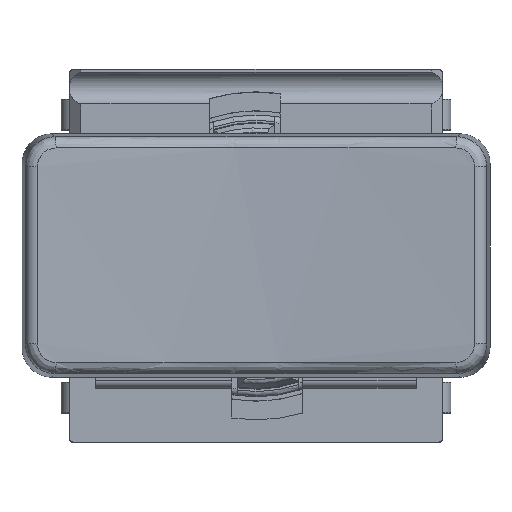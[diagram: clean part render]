
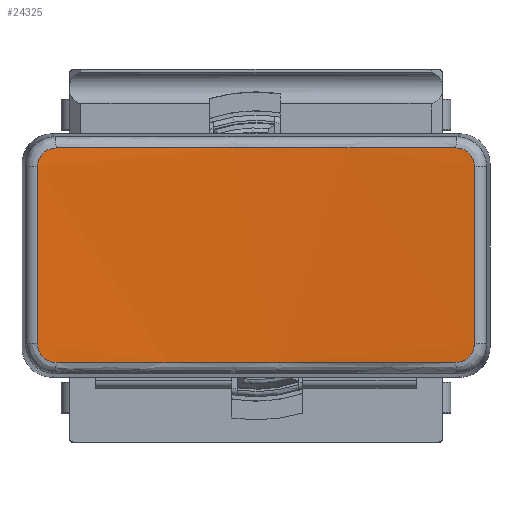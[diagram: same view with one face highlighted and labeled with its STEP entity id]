
A CAD part, top view. The second image highlights one B-rep face of the part: STEP entity #24325.
In plain terms, the highlighted cylindrical face has radius 60 mm (diameter 120 mm), a partial arc.
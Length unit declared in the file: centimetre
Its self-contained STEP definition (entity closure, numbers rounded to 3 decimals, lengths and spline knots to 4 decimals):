
#324=ELLIPSE($,#25687,6.0009,6.);
#325=ELLIPSE($,#25688,6.0009,6.);
#497=CYLINDRICAL_SURFACE($,#25686,6.);
#740=B_SPLINE_CURVE_WITH_KNOTS($,3,(#34402,#34403,#34404,#34405,#34406),
 .UNSPECIFIED.,.F.,.F.,(4,1,4),(0.,0.0335,
0.0783),.UNSPECIFIED.);
#741=B_SPLINE_CURVE_WITH_KNOTS($,3,(#34410,#34411,#34412,#34413,#34414),
 .UNSPECIFIED.,.F.,.F.,(4,1,4),(0.,0.0335,
0.0783),.UNSPECIFIED.);
#742=B_SPLINE_CURVE_WITH_KNOTS($,3,(#34418,#34419,#34420,#34421,#34422,
#34423),.UNSPECIFIED.,.F.,.F.,(4,1,1,4),(0.,0.0224,
0.0447,0.0783),.UNSPECIFIED.);
#743=B_SPLINE_CURVE_WITH_KNOTS($,3,(#34427,#34428,#34429,#34430,#34431),
 .UNSPECIFIED.,.F.,.F.,(4,1,4),(-0.0783,-0.0336,
0.),.UNSPECIFIED.);
#1171=FACE_OUTER_BOUND($,#2419,.T.);
#2419=EDGE_LOOP($,(#15428,#15429,#15430,#15431,#15432,#15433,#15434,#15435));
#4437=LINE($,#34408,#6821);
#4438=LINE($,#34425,#6822);
#6821=VECTOR($,#27828,0.4755);
#6822=VECTOR($,#27831,0.4755);
#9281=VERTEX_POINT($,#34400);
#9282=VERTEX_POINT($,#34401);
#9283=VERTEX_POINT($,#34407);
#9284=VERTEX_POINT($,#34409);
#9285=VERTEX_POINT($,#34415);
#9286=VERTEX_POINT($,#34417);
#9287=VERTEX_POINT($,#34424);
#9288=VERTEX_POINT($,#34426);
#11701=EDGE_CURVE($,#9281,#9282,#740,.T.);
#11702=EDGE_CURVE($,#9283,#9281,#4437,.T.);
#11703=EDGE_CURVE($,#9284,#9283,#741,.T.);
#11704=EDGE_CURVE($,#9285,#9284,#324,.T.);
#11705=EDGE_CURVE($,#9286,#9285,#742,.T.);
#11706=EDGE_CURVE($,#9287,#9286,#4438,.T.);
#11707=EDGE_CURVE($,#9288,#9287,#743,.T.);
#11708=EDGE_CURVE($,#9282,#9288,#325,.T.);
#15428=ORIENTED_EDGE($,*,*,#11701,.F.);
#15429=ORIENTED_EDGE($,*,*,#11702,.F.);
#15430=ORIENTED_EDGE($,*,*,#11703,.F.);
#15431=ORIENTED_EDGE($,*,*,#11704,.F.);
#15432=ORIENTED_EDGE($,*,*,#11705,.F.);
#15433=ORIENTED_EDGE($,*,*,#11706,.F.);
#15434=ORIENTED_EDGE($,*,*,#11707,.F.);
#15435=ORIENTED_EDGE($,*,*,#11708,.F.);
#24325=ADVANCED_FACE($,(#1171),#497,.F.);
#25686=AXIS2_PLACEMENT_3D($,#34399,#27826,#27827);
#25687=AXIS2_PLACEMENT_3D($,#34416,#27829,#27830);
#25688=AXIS2_PLACEMENT_3D($,#34432,#27832,#27833);
#27826=DIRECTION('center_axis',(0.,-1.,0.));
#27827=DIRECTION('ref_axis',(0.105,0.,0.995));
#27828=DIRECTION($,(0.,1.,0.));
#27829=DIRECTION('center_axis',(0.,1.,
-0.018));
#27830=DIRECTION('ref_axis',(0.,-0.018,
-1.));
#27831=DIRECTION($,(0.,-1.,0.));
#27832=DIRECTION('center_axis',(0.,-1.,
-0.018));
#27833=DIRECTION('ref_axis',(0.,0.018,
-1.));
#34399=CARTESIAN_POINT('Origin',(0.,0.,
7.5434));
#34400=CARTESIAN_POINT('',(-0.5863,0.2377,1.5722));
#34401=CARTESIAN_POINT('',(-0.5366,0.2878,1.5675));
#34402=CARTESIAN_POINT('Ctrl Pts',(-0.5863,0.2377,
1.5722));
#34403=CARTESIAN_POINT('Ctrl Pts',(-0.5863,0.2489,
1.5722));
#34404=CARTESIAN_POINT('Ctrl Pts',(-0.5771,0.2753,
1.5712));
#34405=CARTESIAN_POINT('Ctrl Pts',(-0.5514,0.2878,1.5688));
#34406=CARTESIAN_POINT('Ctrl Pts',(-0.5366,0.2878,
1.5675));
#34407=CARTESIAN_POINT('',(-0.5863,-0.2377,1.5722));
#34408=CARTESIAN_POINT($,(-0.5863,0.,1.5722));
#34409=CARTESIAN_POINT('',(-0.5366,-0.2878,1.5675));
#34410=CARTESIAN_POINT('Ctrl Pts',(-0.5366,-0.2878,
1.5675));
#34411=CARTESIAN_POINT('Ctrl Pts',(-0.5477,-0.2878,
1.5685));
#34412=CARTESIAN_POINT('Ctrl Pts',(-0.5739,-0.2786,
1.5709));
#34413=CARTESIAN_POINT('Ctrl Pts',(-0.5863,-0.2527,
1.5722));
#34414=CARTESIAN_POINT('Ctrl Pts',(-0.5863,-0.2377,
1.5722));
#34415=CARTESIAN_POINT('',(0.5366,-0.2878,1.5675));
#34416=CARTESIAN_POINT('Origin',(0.,-0.183,
7.5434));
#34417=CARTESIAN_POINT('',(0.5863,-0.2377,1.5722));
#34418=CARTESIAN_POINT('Ctrl Pts',(0.5863,-0.2377,
1.5722));
#34419=CARTESIAN_POINT('Ctrl Pts',(0.5863,-0.2452,
1.5722));
#34420=CARTESIAN_POINT('Ctrl Pts',(0.5829,-0.2602,
1.5718));
#34421=CARTESIAN_POINT('Ctrl Pts',(0.5662,-0.2812,
1.5702));
#34422=CARTESIAN_POINT('Ctrl Pts',(0.5477,-0.2878,
1.5685));
#34423=CARTESIAN_POINT('Ctrl Pts',(0.5366,-0.2878,
1.5675));
#34424=CARTESIAN_POINT('',(0.5863,0.2377,1.5722));
#34425=CARTESIAN_POINT($,(0.5863,0.,1.5722));
#34426=CARTESIAN_POINT('',(0.5366,0.2878,1.5675));
#34427=CARTESIAN_POINT('Ctrl Pts',(0.5366,0.2878,1.5675));
#34428=CARTESIAN_POINT('Ctrl Pts',(0.5514,0.2878,
1.5688));
#34429=CARTESIAN_POINT('Ctrl Pts',(0.5771,0.2754,
1.5712));
#34430=CARTESIAN_POINT('Ctrl Pts',(0.5863,0.2489,1.5722));
#34431=CARTESIAN_POINT('Ctrl Pts',(0.5863,0.2377,
1.5722));
#34432=CARTESIAN_POINT('Origin',(0.,0.183,
7.5434));
